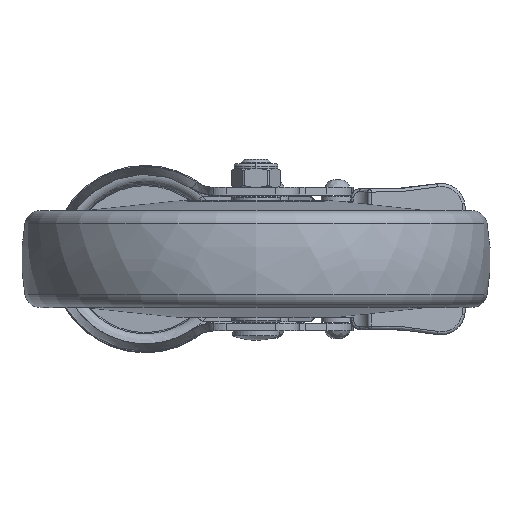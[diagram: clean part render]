
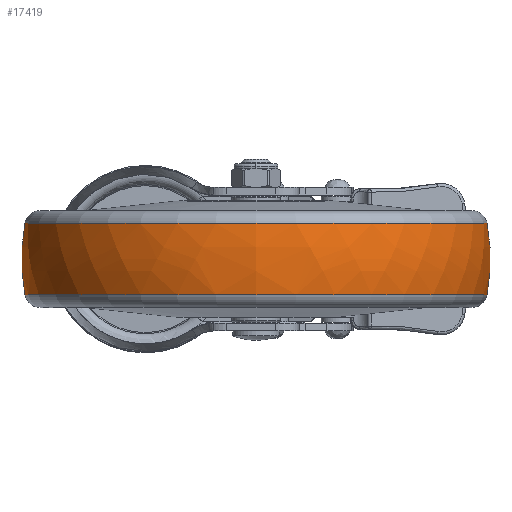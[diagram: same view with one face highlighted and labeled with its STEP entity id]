
A CAD part, front view. The second image highlights one B-rep face of the part: STEP entity #17419.
In plain terms, the highlighted free-form (B-spline) face has degree [3, 3] with [7, 4] control points.
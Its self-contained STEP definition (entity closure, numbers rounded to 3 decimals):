
#16648=CARTESIAN_POINT('',(-11.405,0.,0.));
#16649=DIRECTION('',(-1.,0.,0.));
#16650=DIRECTION('',(0.,1.,0.));
#16651=AXIS2_PLACEMENT_3D('',#16648,#16649,#16650);
#16663=CARTESIAN_POINT('',(0.,12.018,0.));
#16664=DIRECTION('',(0.,0.,1.));
#16665=DIRECTION('',(0.181,0.983,0.));
#16666=AXIS2_PLACEMENT_3D('',#16663,#16664,#16665);
#16668=CARTESIAN_POINT('',(0.,-12.018,0.));
#16669=DIRECTION('',(0.,0.,-1.));
#16670=DIRECTION('',(0.181,-0.983,0.));
#16671=AXIS2_PLACEMENT_3D('',#16668,#16669,#16670);
#16673=CARTESIAN_POINT('',(11.405,0.,0.));
#16674=DIRECTION('',(-1.,0.,0.));
#16675=DIRECTION('',(0.,1.,0.));
#16676=AXIS2_PLACEMENT_3D('',#16673,#16674,#16675);
#16925=CARTESIAN_POINT('',(11.405,73.977,0.));
#16927=VERTEX_POINT('',#16925);
#16928=CARTESIAN_POINT('',(-11.405,73.977,0.));
#16929=VERTEX_POINT('',#16928);
#16977=CARTESIAN_POINT('',(11.405,-73.977,
0.));
#16979=VERTEX_POINT('',#16977);
#16980=CARTESIAN_POINT('',(-11.405,-73.977,
0.));
#16981=VERTEX_POINT('',#16980);
#17383=CARTESIAN_POINT('',(-11.856,-73.746,
4.64));
#17384=CARTESIAN_POINT('',(-4.,-75.249,
4.734));
#17385=CARTESIAN_POINT('',(4.,-75.249,
4.734));
#17386=CARTESIAN_POINT('',(11.856,-73.746,
4.64));
#17387=CARTESIAN_POINT('',(-11.856,-76.601,
-40.744));
#17388=CARTESIAN_POINT('',(-4.,-78.162,
-41.574));
#17389=CARTESIAN_POINT('',(4.,-78.162,
-41.574));
#17390=CARTESIAN_POINT('',(11.856,-76.601,
-40.744));
#17391=CARTESIAN_POINT('',(-11.856,-45.473,
-73.892));
#17392=CARTESIAN_POINT('',(-4.,-46.399,
-75.397));
#17393=CARTESIAN_POINT('',(4.,-46.399,
-75.397));
#17394=CARTESIAN_POINT('',(11.856,-45.473,
-73.892));
#17395=CARTESIAN_POINT('',(-11.856,0.,
-73.892));
#17396=CARTESIAN_POINT('',(-4.,0.,
-75.397));
#17397=CARTESIAN_POINT('',(4.,0.,
-75.397));
#17398=CARTESIAN_POINT('',(11.856,0.,
-73.892));
#17399=CARTESIAN_POINT('',(-11.856,45.473,
-73.892));
#17400=CARTESIAN_POINT('',(-4.,46.399,
-75.397));
#17401=CARTESIAN_POINT('',(4.,46.399,
-75.397));
#17402=CARTESIAN_POINT('',(11.856,45.473,
-73.892));
#17403=CARTESIAN_POINT('',(-11.856,76.601,
-40.744));
#17404=CARTESIAN_POINT('',(-4.,78.162,
-41.574));
#17405=CARTESIAN_POINT('',(4.,78.162,
-41.574));
#17406=CARTESIAN_POINT('',(11.856,76.601,
-40.744));
#17407=CARTESIAN_POINT('',(-11.856,73.746,
4.64));
#17408=CARTESIAN_POINT('',(-4.,75.249,
4.734));
#17409=CARTESIAN_POINT('',(4.,75.249,4.734));
#17410=CARTESIAN_POINT('',(11.856,73.746,4.64));
#17411=(BOUNDED_SURFACE()B_SPLINE_SURFACE(3,3,((#17383,#17384,#17385,#17386),(
#17387,#17388,#17389,#17390),(#17391,#17392,#17393,#17394),(#17395,#17396,
#17397,#17398),(#17399,#17400,#17401,#17402),(#17403,#17404,#17405,#17406),(
#17407,#17408,#17409,#17410)),.UNSPECIFIED.,.F.,.F.,.F.)B_SPLINE_SURFACE_WITH_KNOTS((4,3,4),(4,4),(0.,1.,2.),(0.,1.),.UNSPECIFIED.)GEOMETRIC_REPRESENTATION_ITEM()RATIONAL_B_SPLINE_SURFACE(((1.198,1.184,
1.184,1.198),(0.946,0.935,
0.935,0.946),(0.946,0.935,
0.935,0.946),(1.198,1.184,
1.184,1.198),(0.946,0.935,
0.935,0.946),(0.946,0.935,
0.935,0.946),(1.198,1.184,
1.184,1.198)))REPRESENTATION_ITEM('')SURFACE());
#17412=ORIENTED_EDGE('',*,*,#17373,.T.);
#17413=ORIENTED_EDGE('',*,*,#17326,.T.);
#17414=ORIENTED_EDGE('',*,*,#17377,.F.);
#17416=ORIENTED_EDGE('',*,*,#17415,.F.);
#17417=EDGE_LOOP('',(#17412,#17413,#17414,#17416));
#17418=FACE_OUTER_BOUND('',#17417,.F.);
#16652=CIRCLE('',#16651,73.977);
#16667=CIRCLE('',#16666,63.);
#16672=CIRCLE('',#16671,63.);
#16677=CIRCLE('',#16676,73.977);
#17326=EDGE_CURVE('',#16929,#16981,#16652,.T.);
#17373=EDGE_CURVE('',#16927,#16929,#16667,.T.);
#17377=EDGE_CURVE('',#16979,#16981,#16672,.T.);
#17415=EDGE_CURVE('',#16927,#16979,#16677,.T.);
#17419=ADVANCED_FACE('',(#17418),#17411,.T.);
